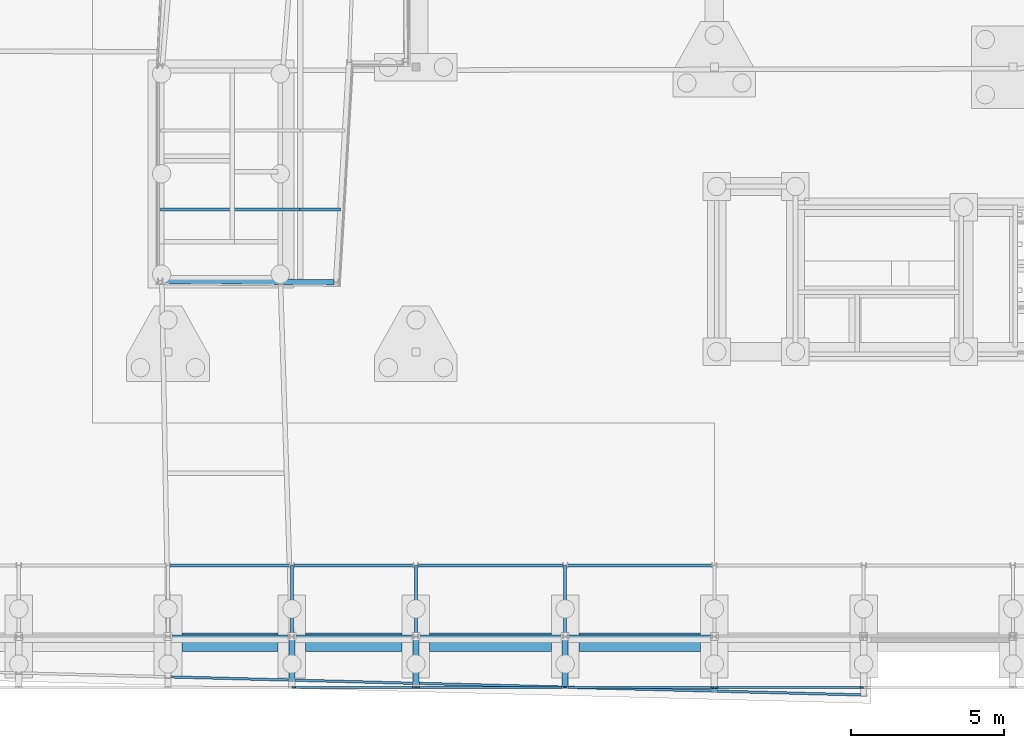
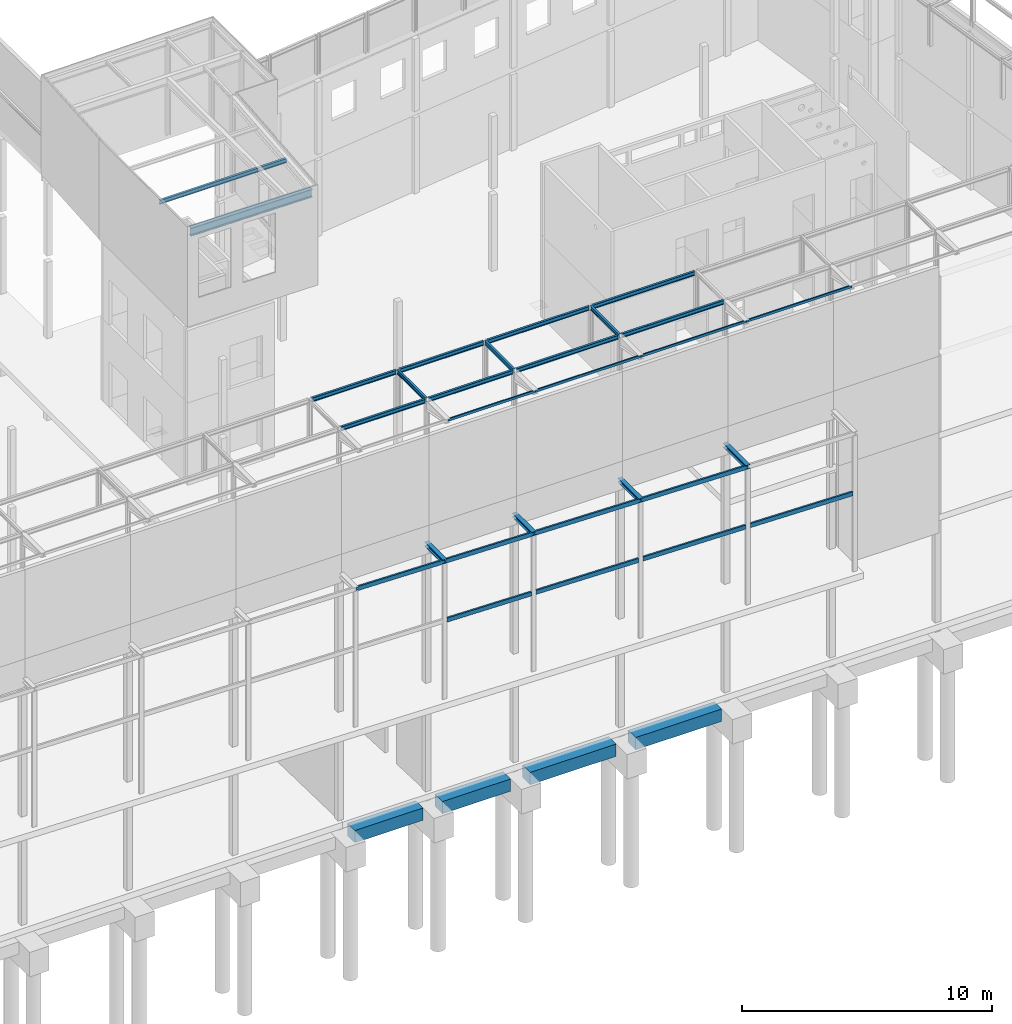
# One storey, part 62 of 82: 34 beams.
"""IFC2X3 building model written with IfcOpenShell, lengths in millimetres."""

from ifc_helpers import new_model, si_unit, frame, frame_2d, origin_with_axes, place, context, subcontext, project, spatial, rectangle, i_section, u_section, extrude, boolean, clip, halfspace, material, type_object, element, save


model = new_model("IFC2X3")

# Units and contexts
model_context = context("Model", 3, precision=1e-05, world=origin_with_axes())
body_context = subcontext(model_context, "Body", "Model", "MODEL_VIEW")
ifc_project = project(units=[si_unit("LENGTHUNIT", "METRE", prefix="MILLI"), si_unit("AREAUNIT", "SQUARE_METRE"), si_unit("VOLUMEUNIT", "CUBIC_METRE"), si_unit("MASSUNIT", "GRAM", prefix="KILO"), si_unit("TIMEUNIT", "SECOND"), si_unit("PLANEANGLEUNIT", "RADIAN"), si_unit("SOLIDANGLEUNIT", "STERADIAN"), si_unit("THERMODYNAMICTEMPERATUREUNIT", "DEGREE_CELSIUS"), si_unit("LUMINOUSINTENSITYUNIT", "LUMEN")], contexts=[model_context])

# Site, building, storey
site_placement = place(None, origin_with_axes())
site = spatial("IfcSite", under=ifc_project, at=site_placement, Name="Undefined", CompositionType="ELEMENT")
building_placement = place(site_placement, origin_with_axes())
building = spatial("IfcBuilding", under=site, at=building_placement, Name="Undefined", CompositionType="ELEMENT")
storey_placement = place(building_placement, origin_with_axes())
storey = spatial("IfcBuildingStorey", under=building, at=storey_placement, Name="Undefined", CompositionType="ELEMENT", Elevation=0.0)

# Beams
ifc_material_1 = material(Name="STEEL/S275JR")
beam_type_1 = type_object("IfcBeamType", Name="IPE200", PredefinedType="NOTDEFINED")
for number, where, z_axis, x_axis, name in (
    (1, (42224.9999979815, -0.00129037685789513, 19025.0300000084), (0.0, 1.29029999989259e-05, 0.999999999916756), (1.00000135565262e-09, 0.999999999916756, -1.29029999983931e-05), "POUTRE"),
    (2, (37349.9999979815, -0.00129036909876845, 19025.0300000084), (0.0, 1.29029999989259e-05, 0.999999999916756), (1.00000135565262e-09, 0.999999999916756, -1.29029999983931e-05), "POUTRE"),
    (3, (33299.9999979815, -0.00129036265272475, 19025.0300000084), (0.0, 1.29029999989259e-05, 0.999999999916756), (1.00000135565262e-09, 0.999999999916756, -1.29029999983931e-05), "POUTRE"),
):
    element("IfcBeam", number, at=place(storey_placement, frame(where, z_axis=z_axis, x_axis=x_axis)), inside=storey, type_object=beam_type_1, material=ifc_material_1, Name=name, ObjectType="IPE200", context=body_context, shape_type="SweptSolid", body=[
        extrude(i_section(OverallWidth=100.0, OverallDepth=200.0, WebThickness=5.599999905, FlangeThickness=8.5, FilletRadius=12.0, at=frame_2d((5.17284206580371e-08, 4.49290382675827e-10), x_axis=(1.0, 0.0))), frame((2321.00129012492, -9.56248207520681e-23, 3.93192912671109e-18), z_axis=(-1.0, 0.0, 0.0), x_axis=(-2.77555756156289e-17, -1.0, 0.0)), (0.0, 0.0, 1.0), 2317.0),
    ])
beam_1_placement = place(storey_placement, frame((33575.0000006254, 13949.9999998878, 21745.0), z_axis=(0.0, 0.0, 1.0), x_axis=(1.0, 0.0, 0.0)))
element("IfcBeam", 4, at=beam_1_placement, inside=storey, type_object=beam_type_1, material=ifc_material_1, Name="POUTRE", ObjectType="IPE200", context=body_context, shape_type="Clipping", body=[
    clip(extrude(i_section(OverallWidth=100.0, OverallDepth=200.0, WebThickness=5.599999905, FlangeThickness=8.5, FilletRadius=12.0, at=frame_2d((5.17284206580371e-08, 4.49290382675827e-10), x_axis=(1.0, 0.0))), frame((1309.27339287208, 0.0, 0.0), z_axis=(-1.0, 0.0, 0.0), x_axis=(-2.77555756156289e-17, -1.0, 0.0)), (0.0, 0.0, 1.0), 1305.0), halfspace(frame((1306.28050833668, -2.65208655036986e-08, -1000.0), z_axis=(-0.998248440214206, 0.0591612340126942, 0.0), x_axis=(0.0591612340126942, 0.998248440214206, 0.0)), True)),
])
beam_2_placement = place(storey_placement, frame((29250.0000001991, 13949.999999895, 21745.0), z_axis=(0.0, 0.0, 1.0), x_axis=(1.0, 0.0, 0.0)))
element("IfcBeam", 5, at=beam_2_placement, inside=storey, type_object=beam_type_1, material=ifc_material_1, Name="POUTRE", ObjectType="IPE200", context=body_context, shape_type="SweptSolid", body=[
    extrude(i_section(OverallWidth=100.0, OverallDepth=200.0, WebThickness=5.599999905, FlangeThickness=8.5, FilletRadius=12.0, at=frame_2d((5.17284206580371e-08, 4.49290382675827e-10), x_axis=(1.0, 0.0))), frame((4320.70000113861, 0.0, 0.0), z_axis=(-1.0, 0.0, 0.0), x_axis=(-2.77555756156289e-17, -1.0, 0.0)), (0.0, 0.0, 1.0), 4562.6),
])
beam_3_placement = place(storey_placement, frame((42225.0000003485, 2324.99999987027, 19025.0000000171), z_axis=(0.0, 0.0, 1.0), x_axis=(1.0, 0.0, 0.0)))
element("IfcBeam", 6, at=beam_3_placement, inside=storey, type_object=beam_type_1, material=ifc_material_1, Name="POUTRE", ObjectType="IPE200", context=body_context, shape_type="SweptSolid", body=[
    extrude(i_section(OverallWidth=100.0, OverallDepth=200.0, WebThickness=5.599999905, FlangeThickness=8.5, FilletRadius=12.0, at=frame_2d((5.17284206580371e-08, 4.49290382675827e-10), x_axis=(1.0, 0.0))), frame((4795.00000103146, 0.0, 0.0), z_axis=(-1.0, 0.0, 0.0), x_axis=(-2.77555756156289e-17, -1.0, 0.0)), (0.0, 0.0, 1.0), 4715.0),
])
beam_4_placement = place(storey_placement, frame((37349.9991902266, 2324.99999987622, 19025.0000000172), z_axis=(0.0, 0.0, 1.0), x_axis=(1.0, 0.0, 0.0)))
element("IfcBeam", 7, at=beam_4_placement, inside=storey, type_object=beam_type_1, material=ifc_material_1, Name="POUTRE", ObjectType="IPE200", context=body_context, shape_type="SweptSolid", body=[
    extrude(i_section(OverallWidth=100.0, OverallDepth=200.0, WebThickness=5.599999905, FlangeThickness=8.5, FilletRadius=12.0, at=frame_2d((5.17284206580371e-08, 4.49290382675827e-10), x_axis=(1.0, 0.0))), frame((4795.00081092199, 0.0, 0.0), z_axis=(-1.0, 0.0, 0.0), x_axis=(-2.77555756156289e-17, -1.0, 0.0)), (0.0, 0.0, 1.0), 4715.0),
])
for number, where, z_axis, x_axis, name in (
    (8, (33300.0000005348, 2324.99999982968, 19025.0000000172), (0.0, 0.0, 1.0), (1.0, 0.0, 0.0), "POUTRE"),
    (9, (29249.999999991, 2324.9999997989, 19025.0000000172), (0.0, 0.0, 1.0), (1.0, 0.0, 0.0), "POUTRE"),
):
    element("IfcBeam", number, at=place(storey_placement, frame(where, z_axis=z_axis, x_axis=x_axis)), inside=storey, type_object=beam_type_1, material=ifc_material_1, Name=name, ObjectType="IPE200", context=body_context, shape_type="SweptSolid", body=[
        extrude(i_section(OverallWidth=100.0, OverallDepth=200.0, WebThickness=5.599999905, FlangeThickness=8.5, FilletRadius=12.0, at=frame_2d((5.17284206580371e-08, 4.49290382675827e-10), x_axis=(1.0, 0.0))), frame((3970.00000060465, 0.0, 0.0), z_axis=(-1.0, 0.0, 0.0), x_axis=(-2.77555756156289e-17, -1.0, 0.0)), (0.0, 0.0, 1.0), 3890.0),
    ])
beam_5_placement = place(storey_placement, frame((42224.999384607, -5.7370442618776e-08, 19025.0300000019), z_axis=(6.15400000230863e-06, 0.0, 0.999999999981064), x_axis=(0.999999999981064, 0.0, -6.1540000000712e-06)))
element("IfcBeam", 10, at=beam_5_placement, inside=storey, type_object=beam_type_1, material=ifc_material_1, Name="POUTRE", ObjectType="IPE200", context=body_context, shape_type="SweptSolid", body=[
    extrude(i_section(OverallWidth=100.0, OverallDepth=200.0, WebThickness=5.599999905, FlangeThickness=8.5, FilletRadius=12.0, at=frame_2d((5.17284206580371e-08, 4.49290382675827e-10), x_axis=(1.0, 0.0))), frame((4795.00061555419, 0.0, 4.06152350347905e-18), z_axis=(-1.0, 0.0, 0.0), x_axis=(-2.77555756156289e-17, -1.0, 0.0)), (0.0, 0.0, 1.0), 4715.0),
])
beam_6_placement = place(storey_placement, frame((37350.0006153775, -4.93093637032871e-08, 19025.0000000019), z_axis=(-6.11252893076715e-06, 2.76481135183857e-10, 0.999999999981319), x_axis=(0.999999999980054, 0.0, 6.31599999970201e-06)))
element("IfcBeam", 11, at=beam_6_placement, inside=storey, type_object=beam_type_1, material=ifc_material_1, Name="POUTRE", ObjectType="IPE200", context=body_context, shape_type="SweptSolid", body=[
    extrude(i_section(OverallWidth=100.0, OverallDepth=200.0, WebThickness=5.599999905, FlangeThickness=8.5, FilletRadius=12.0, at=frame_2d((5.17284206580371e-08, 4.49290382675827e-10), x_axis=(1.0, 0.0))), frame((4794.9993847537, 0.0, 0.0), z_axis=(-1.0, 0.0, 0.0), x_axis=(-2.77555756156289e-17, -1.0, 0.0)), (0.0, 0.0, 1.0), 4715.0),
])
beam_7_placement = place(storey_placement, frame((33299.9992592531, -4.2605023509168e-08, 19025.0300000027), z_axis=(7.40699999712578e-06, 0.0, 0.999999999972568), x_axis=(0.999999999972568, 0.0, -7.40700000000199e-06)))
element("IfcBeam", 12, at=beam_7_placement, inside=storey, type_object=beam_type_1, material=ifc_material_1, Name="POUTRE", ObjectType="IPE200", context=body_context, shape_type="SweptSolid", body=[
    extrude(i_section(OverallWidth=100.0, OverallDepth=200.0, WebThickness=5.599999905, FlangeThickness=8.5, FilletRadius=12.0, at=frame_2d((5.17284206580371e-08, 4.49290382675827e-10), x_axis=(1.0, 0.0))), frame((3970.00074088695, 0.0, 0.0), z_axis=(-1.0, 0.0, 0.0), x_axis=(-2.77555756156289e-17, -1.0, 0.0)), (0.0, 0.0, 1.0), 3890.0),
])
beam_8_placement = place(storey_placement, frame((29250.0007407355, -3.5907959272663e-08, 19025.0000000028), z_axis=(-7.40700000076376e-06, 0.0, 0.999999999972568), x_axis=(0.999999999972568, 0.0, 7.40700000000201e-06)))
element("IfcBeam", 13, at=beam_8_placement, inside=storey, type_object=beam_type_1, material=ifc_material_1, Name="POUTRE", ObjectType="IPE200", context=body_context, shape_type="SweptSolid", body=[
    extrude(i_section(OverallWidth=100.0, OverallDepth=200.0, WebThickness=5.599999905, FlangeThickness=8.5, FilletRadius=12.0, at=frame_2d((5.17284206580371e-08, 4.49290382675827e-10), x_axis=(1.0, 0.0))), frame((3969.99925939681, 0.0, 0.0), z_axis=(-1.0, 0.0, 0.0), x_axis=(-2.77555756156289e-17, -1.0, 0.0)), (0.0, 0.0, 1.0), 3890.0),
])
beam_type_2 = type_object("IfcBeamType", Name="UPE120", PredefinedType="NOTDEFINED")
beam_9_placement = place(storey_placement, frame((47109.6813524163, -1670.00005428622, 19065.0), z_axis=(0.0, -6.50000002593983e-08, -0.999999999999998), x_axis=(1.0, 0.0, 0.0)))
element("IfcBeam", 14, at=beam_9_placement, inside=storey, type_object=beam_type_2, material=ifc_material_1, Name="POUTRE", ObjectType="UPE120", context=body_context, shape_type="CSG", body=[
    boolean("DIFFERENCE", boolean("DIFFERENCE", extrude(u_section(Depth=120.0, FlangeWidth=60.0, WebThickness=5.0, FlangeThickness=8.0, FilletRadius=12.0, at=frame_2d((5.17284206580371e-08, 4.49290382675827e-10), x_axis=(1.0, 0.0))), frame((4860.31816219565, 0.0, 0.0), z_axis=(-1.0, 0.0, 0.0), x_axis=(-2.77555756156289e-17, -1.0, 0.0)), (0.0, 0.0, 1.0), 4865.0), extrude(rectangle(XDim=22.0, YDim=112.0, at=frame_2d((5.17284206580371e-08, 4.49290382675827e-10), x_axis=(1.0, 0.0))), frame((49.3181621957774, 31.0, -50.014868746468), z_axis=(-2.77555756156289e-17, -1.0, 0.0), x_axis=(0.0, 0.0, 1.0)), (0.0, 0.0, 1.0), 62.0)), extrude(rectangle(XDim=22.0, YDim=112.0, at=frame_2d((5.17284206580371e-08, 4.49290382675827e-10), x_axis=(1.0, 0.0))), frame((4806.31816219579, -31.0, -50.014868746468), z_axis=(0.0, 1.0, 0.0), x_axis=(0.0, 0.0, 1.0)), (0.0, 0.0, 1.0), 62.0)),
])
for number, where, z_axis, x_axis, name in (
    (15, (42234.6818419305, -1670.00005429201, 19065.0), (0.0, -6.50000002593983e-08, -0.999999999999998), (1.0, 0.0, 0.0), "POUTRE"),
    (16, (37359.6818419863, -1670.00005429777, 19065.0), (0.0, -6.50000002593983e-08, -0.999999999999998), (1.0, 0.0, 0.0), "POUTRE"),
):
    element("IfcBeam", number, at=place(storey_placement, frame(where, z_axis=z_axis, x_axis=x_axis)), inside=storey, type_object=beam_type_2, material=ifc_material_1, Name=name, ObjectType="UPE120", context=body_context, shape_type="CSG", body=[
        boolean("DIFFERENCE", boolean("DIFFERENCE", extrude(u_section(Depth=120.0, FlangeWidth=60.0, WebThickness=5.0, FlangeThickness=8.0, FilletRadius=12.0, at=frame_2d((5.17284206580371e-08, 4.49290382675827e-10), x_axis=(1.0, 0.0))), frame((4860.31767279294, 0.0, 0.0), z_axis=(-1.0, 0.0, 0.0), x_axis=(-2.77555756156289e-17, -1.0, 0.0)), (0.0, 0.0, 1.0), 4865.0), extrude(rectangle(XDim=22.0, YDim=112.0, at=frame_2d((5.17284206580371e-08, 4.49290382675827e-10), x_axis=(1.0, 0.0))), frame((49.3176728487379, 31.0, -50.0148687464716), z_axis=(-2.77555756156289e-17, -1.0, 0.0), x_axis=(0.0, 0.0, 1.0)), (0.0, 0.0, 1.0), 62.0)), extrude(rectangle(XDim=22.0, YDim=112.0, at=frame_2d((5.17284206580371e-08, 4.49290382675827e-10), x_axis=(1.0, 0.0))), frame((4806.31767279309, -31.0, -50.0148687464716), z_axis=(0.0, 1.0, 0.0), x_axis=(0.0, 0.0, 1.0)), (0.0, 0.0, 1.0), 62.0)),
    ])
beam_10_placement = place(storey_placement, frame((33307.4609396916, -1670.00005430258, 19065.0), z_axis=(0.0, -6.50000002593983e-08, -0.999999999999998), x_axis=(1.0, 0.0, 0.0)))
element("IfcBeam", 17, at=beam_10_placement, inside=storey, type_object=beam_type_2, material=ifc_material_1, Name="POUTRE", ObjectType="UPE120", context=body_context, shape_type="CSG", body=[
    boolean("DIFFERENCE", boolean("DIFFERENCE", extrude(u_section(Depth=120.0, FlangeWidth=60.0, WebThickness=5.0, FlangeThickness=8.0, FilletRadius=12.0, at=frame_2d((5.17284206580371e-08, 4.49290382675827e-10), x_axis=(1.0, 0.0))), frame((4037.53857492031, 0.0, 0.0), z_axis=(-1.0, 0.0, 0.0), x_axis=(-2.77555756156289e-17, -1.0, 0.0)), (0.0, 0.0, 1.0), 4040.0), extrude(rectangle(XDim=22.0, YDim=112.0, at=frame_2d((5.17284206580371e-08, 4.49290382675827e-10), x_axis=(1.0, 0.0))), frame((51.5385749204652, 31.0, -50.0148687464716), z_axis=(-2.77555756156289e-17, -1.0, 0.0), x_axis=(0.0, 0.0, 1.0)), (0.0, 0.0, 1.0), 62.0)), extrude(rectangle(XDim=22.0, YDim=112.0, at=frame_2d((5.17284206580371e-08, 4.49290382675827e-10), x_axis=(1.0, 0.0))), frame((3983.53857492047, -31.0, -50.0148687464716), z_axis=(0.0, 1.0, 0.0), x_axis=(0.0, 0.0, 1.0)), (0.0, 0.0, 1.0), 62.0)),
])
beam_type_3 = type_object("IfcBeamType", Name="IPE400", PredefinedType="NOTDEFINED")
beam_11_placement = place(storey_placement, frame((29003.7484989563, 11622.462924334, 21695.0), z_axis=(0.0, 0.0, 1.0), x_axis=(0.999952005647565, -0.00979726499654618, 0.0)))
element("IfcBeam", 18, at=beam_11_placement, inside=storey, type_object=beam_type_3, material=ifc_material_1, Name="POUTRE", ObjectType="IPE400", context=body_context, shape_type="Clipping", body=[
    clip(clip(extrude(i_section(OverallWidth=180.0, OverallDepth=400.0, WebThickness=8.600000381, FlangeThickness=13.5, FilletRadius=21.0, at=frame_2d((5.17284206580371e-08, 4.49290382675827e-10), x_axis=(1.0, 0.0))), frame((5662.6177347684, 0.0, 0.0), z_axis=(-1.0, 0.0, 0.0), x_axis=(-2.77555756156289e-17, -1.0, 0.0)), (0.0, 0.0, 1.0), 5584.4), halfspace(frame((5660.83632941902, -2.6358975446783e-08, -1000.0), z_axis=(-0.999951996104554, -0.00979823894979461, 0.0), x_axis=(-0.00979823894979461, 0.999951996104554, 0.0)), True)), halfspace(frame((80.0038406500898, -1.74768501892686e-08, -1000.0), z_axis=(0.999951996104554, 0.00979823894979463, 0.0), x_axis=(0.00979823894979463, -0.999951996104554, 0.0)), True)),
])
beam_type_4 = type_object("IfcBeamType", Name="UPE200", PredefinedType="NOTDEFINED")
beam_12_placement = place(storey_placement, frame((33301.0506681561, -1426.26308037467, 9125.0), z_axis=(0.0, -6.50000002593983e-08, -0.999999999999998), x_axis=(0.999654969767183, -0.0262667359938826, 0.0)))
element("IfcBeam", 19, at=beam_12_placement, inside=storey, type_object=beam_type_4, material=ifc_material_1, Name="POUTRE", ObjectType="UPE200", context=body_context, shape_type="Clipping", body=[
    clip(clip(extrude(u_section(Depth=200.0, FlangeWidth=80.0, WebThickness=6.0, FlangeThickness=11.0, FilletRadius=13.0, at=frame_2d((5.17284206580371e-08, 4.49290382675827e-10), x_axis=(1.0, 0.0))), frame((3952.4339655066, 0.0, -1.81898940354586e-12), z_axis=(-1.0, 0.0, 0.0), x_axis=(-2.77555756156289e-17, -1.0, 0.0)), (0.0, 0.0, 1.0), 3855.6), halfspace(frame((3950.31088071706, 3.02244416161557e-08, 999.999999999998), z_axis=(-0.999654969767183, 0.0262667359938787, 0.0), x_axis=(-0.0262667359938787, -0.999654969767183, 0.0)), True)), halfspace(frame((98.9834828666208, 2.41033148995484e-08, 999.999999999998), z_axis=(0.999654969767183, -0.0262667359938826, 0.0), x_axis=(0.0262667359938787, 0.999654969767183, 0.0)), True)),
])
beam_13_placement = place(storey_placement, frame((47101.0354454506, -1785.15877566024, 9125.0), z_axis=(0.0, -6.50000002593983e-08, -0.999999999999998), x_axis=(0.999664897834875, -0.0258861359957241, 0.0)))
element("IfcBeam", 20, at=beam_13_placement, inside=storey, type_object=beam_type_4, material=ifc_material_1, Name="POUTRE", ObjectType="UPE200", context=body_context, shape_type="Clipping", body=[
    clip(clip(extrude(u_section(Depth=200.0, FlangeWidth=80.0, WebThickness=6.0, FlangeThickness=11.0, FilletRadius=13.0, at=frame_2d((5.17284206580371e-08, 4.49290382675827e-10), x_axis=(1.0, 0.0))), frame((4777.65186549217, -1.65758097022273e-14, 0.0), z_axis=(-1.0, 0.0, 0.0), x_axis=(-2.77555756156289e-17, -1.0, 0.0)), (0.0, 0.0, 1.0), 4680.7), halfspace(frame((4775.55956456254, 5.34796527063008e-08, 1000.0), z_axis=(-0.999664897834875, 0.0258861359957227, 0.0), x_axis=(-0.0258861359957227, -0.999664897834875, 0.0)), True)), halfspace(frame((98.9977277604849, 4.60463525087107e-08, 1000.0), z_axis=(0.999664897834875, -0.0258861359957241, 0.0), x_axis=(0.02588613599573, 0.999664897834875, 0.0)), True)),
])
beam_14_placement = place(storey_placement, frame((42226.0388092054, -1658.25879695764, 9125.0), z_axis=(0.0, -6.50000002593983e-08, -0.999999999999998), x_axis=(0.999664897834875, -0.0258861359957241, 0.0)))
element("IfcBeam", 21, at=beam_14_placement, inside=storey, type_object=beam_type_4, material=ifc_material_1, Name="POUTRE", ObjectType="UPE200", context=body_context, shape_type="Clipping", body=[
    clip(clip(extrude(u_section(Depth=200.0, FlangeWidth=80.0, WebThickness=6.0, FlangeThickness=11.0, FilletRadius=13.0, at=frame_2d((5.17284206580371e-08, 4.49290382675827e-10), x_axis=(1.0, 0.0))), frame((4777.65379157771, 0.0, 0.0), z_axis=(-1.0, 0.0, 0.0), x_axis=(-2.77555756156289e-17, -1.0, 0.0)), (0.0, 0.0, 1.0), 4680.7), halfspace(frame((4775.56149064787, 4.57284841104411e-08, 1000.0), z_axis=(-0.999664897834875, 0.0258861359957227, 0.0), x_axis=(-0.0258861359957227, -0.999664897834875, 0.0)), True)), halfspace(frame((98.9977277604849, 4.60463525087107e-08, 1000.0), z_axis=(0.999664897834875, -0.0258861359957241, 0.0), x_axis=(0.02588613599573, 0.999664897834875, 0.0)), True)),
])
beam_15_placement = place(storey_placement, frame((37351.0383278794, -1530.20904482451, 9125.0), z_axis=(0.0, -6.50000002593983e-08, -0.999999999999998), x_axis=(0.999664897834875, -0.0258861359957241, 0.0)))
element("IfcBeam", 22, at=beam_15_placement, inside=storey, type_object=beam_type_4, material=ifc_material_1, Name="POUTRE", ObjectType="UPE200", context=body_context, shape_type="Clipping", body=[
    clip(clip(extrude(u_section(Depth=200.0, FlangeWidth=80.0, WebThickness=6.0, FlangeThickness=11.0, FilletRadius=13.0, at=frame_2d((5.17284206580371e-08, 4.49290382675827e-10), x_axis=(1.0, 0.0))), frame((4777.65763908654, -1.65758297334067e-14, 0.0), z_axis=(-1.0, 0.0, 0.0), x_axis=(-2.77555756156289e-17, -1.0, 0.0)), (0.0, 0.0, 1.0), 4680.8), halfspace(frame((4775.56533815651, 3.79773155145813e-08, 1000.0), z_axis=(-0.999664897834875, 0.0258861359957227, 0.0), x_axis=(-0.0258861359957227, -0.999664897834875, 0.0)), True)), halfspace(frame((98.9934172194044, 3.05440153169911e-08, 1000.0), z_axis=(0.999664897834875, -0.0258861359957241, 0.0), x_axis=(0.02588613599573, 0.999664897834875, 0.0)), True)),
])
beam_16_placement = place(storey_placement, frame((33301.0506681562, -1426.26308037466, 12025.0), z_axis=(0.0, -6.50000002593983e-08, -0.999999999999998), x_axis=(0.999654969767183, -0.0262667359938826, 0.0)))
element("IfcBeam", 23, at=beam_16_placement, inside=storey, type_object=beam_type_4, material=ifc_material_1, Name="POUTRE", ObjectType="UPE200", context=body_context, shape_type="CSG", body=[
    boolean("DIFFERENCE", boolean("DIFFERENCE", boolean("DIFFERENCE", boolean("DIFFERENCE", boolean("DIFFERENCE", boolean("DIFFERENCE", extrude(u_section(Depth=200.0, FlangeWidth=80.0, WebThickness=6.0, FlangeThickness=11.0, FilletRadius=13.0, at=frame_2d((5.17284206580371e-08, 4.49290382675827e-10), x_axis=(1.0, 0.0))), frame((4047.8948134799, 0.0, 1.81898940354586e-12), z_axis=(-1.0, 0.0, 0.0), x_axis=(-2.77555756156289e-17, -1.0, 0.0)), (0.0, 0.0, 1.0), 4046.5), extrude(rectangle(XDim=34.0, YDim=107.5, at=frame_2d((5.17284206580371e-08, 4.49290382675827e-10), x_axis=(1.0, 0.0))), frame((3990.31962564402, -143.013090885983, 84.0000000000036), z_axis=(0.0262667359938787, 0.999654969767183, 0.0), x_axis=(0.0, 0.0, 1.0)), (0.0, 0.0, 1.0), 185.4)), extrude(rectangle(XDim=34.0, YDim=107.5, at=frame_2d((5.17284206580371e-08, 4.49290382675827e-10), x_axis=(1.0, 0.0))), frame((3990.31962564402, -143.013090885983, -83.9999999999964), z_axis=(0.0262667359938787, 0.999654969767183, 0.0), x_axis=(0.0, 0.0, 1.0)), (0.0, 0.0, 1.0), 185.4)), extrude(rectangle(XDim=34.0, YDim=107.5, at=frame_2d((5.17284206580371e-08, 4.49290382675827e-10), x_axis=(1.0, 0.0))), frame((59.0489814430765, 145.78423153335, 84.0000000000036), z_axis=(-0.0262667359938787, -0.999654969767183, 0.0), x_axis=(0.0, 0.0, 1.0)), (0.0, 0.0, 1.0), 188.2)), extrude(rectangle(XDim=34.0, YDim=107.5, at=frame_2d((5.17284206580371e-08, 4.49290382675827e-10), x_axis=(1.0, 0.0))), frame((59.0489814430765, 145.78423153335, -83.9999999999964), z_axis=(-0.0262667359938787, -0.999654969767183, 0.0), x_axis=(0.0, 0.0, 1.0)), (0.0, 0.0, 1.0), 188.2)), halfspace(frame((4045.84527077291, 3.03760998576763e-08, 1000.0), z_axis=(-0.999654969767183, 0.0262667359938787, 0.0), x_axis=(-0.0262667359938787, -0.999654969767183, 0.0)), True)), halfspace(frame((3.45052237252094, 2.39513155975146e-08, 1000.0), z_axis=(0.999654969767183, -0.0262667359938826, 0.0), x_axis=(0.0262667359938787, 0.999654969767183, 0.0)), True)),
])
beam_17_placement = place(storey_placement, frame((42226.0388092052, -1658.25879695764, 12025.0), z_axis=(0.0, -6.50000002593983e-08, -0.999999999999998), x_axis=(0.999664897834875, -0.0258861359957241, 0.0)))
element("IfcBeam", 24, at=beam_17_placement, inside=storey, type_object=beam_type_4, material=ifc_material_1, Name="POUTRE", ObjectType="UPE200", context=body_context, shape_type="CSG", body=[
    boolean("DIFFERENCE", boolean("DIFFERENCE", boolean("DIFFERENCE", boolean("DIFFERENCE", boolean("DIFFERENCE", boolean("DIFFERENCE", extrude(u_section(Depth=200.0, FlangeWidth=80.0, WebThickness=6.0, FlangeThickness=11.0, FilletRadius=13.0, at=frame_2d((5.17284206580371e-08, 4.49290382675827e-10), x_axis=(1.0, 0.0))), frame((4873.11438010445, 3.41060513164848e-13, 0.0), z_axis=(-1.0, 0.0, 0.0), x_axis=(-2.77555756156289e-17, -1.0, 0.0)), (0.0, 0.0, 1.0), 4871.7), extrude(rectangle(XDim=34.0, YDim=107.5, at=frame_2d((5.17284206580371e-08, 4.49290382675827e-10), x_axis=(1.0, 0.0))), frame((4815.10812516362, -162.89100776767, 84.0), z_axis=(0.02588613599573, 0.999664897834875, 0.0), x_axis=(0.0, 0.0, 1.0)), (0.0, 0.0, 1.0), 205.3)), extrude(rectangle(XDim=34.0, YDim=107.5, at=frame_2d((5.17284206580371e-08, 4.49290382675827e-10), x_axis=(1.0, 0.0))), frame((4815.10812516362, -162.89100776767, -84.0), z_axis=(0.02588613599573, 0.999664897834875, 0.0), x_axis=(0.0, 0.0, 1.0)), (0.0, 0.0, 1.0), 205.3)), extrude(rectangle(XDim=34.0, YDim=107.5, at=frame_2d((5.17284206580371e-08, 4.49290382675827e-10), x_axis=(1.0, 0.0))), frame((59.5184490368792, 165.621995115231, 84.0), z_axis=(-0.0258861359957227, -0.999664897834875, 0.0), x_axis=(0.0, 0.0, 1.0)), (0.0, 0.0, 1.0), 208.0)), extrude(rectangle(XDim=34.0, YDim=107.5, at=frame_2d((5.17284206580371e-08, 4.49290382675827e-10), x_axis=(1.0, 0.0))), frame((59.5184490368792, 165.621995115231, -84.0), z_axis=(-0.0258861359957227, -0.999664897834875, 0.0), x_axis=(0.0, 0.0, 1.0)), (0.0, 0.0, 1.0), 208.0)), halfspace(frame((4871.09350476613, 4.58802560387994e-08, 1000.0), z_axis=(-0.999664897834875, 0.0258861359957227, 0.0), x_axis=(-0.0258861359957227, -0.999664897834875, 0.0)), True)), halfspace(frame((3.46235102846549, 3.81431846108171e-08, 1000.0), z_axis=(0.999664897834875, -0.0258861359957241, 0.0), x_axis=(0.02588613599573, 0.999664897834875, 0.0)), True)),
])
beam_18_placement = place(storey_placement, frame((37351.0383278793, -1530.20904482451, 12025.0), z_axis=(0.0, -6.50000002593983e-08, -0.999999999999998), x_axis=(0.999664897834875, -0.0258861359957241, 0.0)))
element("IfcBeam", 25, at=beam_18_placement, inside=storey, type_object=beam_type_4, material=ifc_material_1, Name="POUTRE", ObjectType="UPE200", context=body_context, shape_type="CSG", body=[
    boolean("DIFFERENCE", boolean("DIFFERENCE", boolean("DIFFERENCE", boolean("DIFFERENCE", boolean("DIFFERENCE", boolean("DIFFERENCE", extrude(u_section(Depth=200.0, FlangeWidth=80.0, WebThickness=6.0, FlangeThickness=11.0, FilletRadius=13.0, at=frame_2d((5.17284206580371e-08, 4.49290382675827e-10), x_axis=(1.0, 0.0))), frame((4873.11486159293, 1.13686837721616e-13, 0.0), z_axis=(-1.0, 0.0, 0.0), x_axis=(-2.77555756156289e-17, -1.0, 0.0)), (0.0, 0.0, 1.0), 4871.7), extrude(rectangle(XDim=34.0, YDim=107.5, at=frame_2d((5.17284206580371e-08, 4.49290382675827e-10), x_axis=(1.0, 0.0))), frame((4815.1086066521, -162.89100776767, 84.0), z_axis=(0.02588613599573, 0.999664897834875, 0.0), x_axis=(0.0, 0.0, 1.0)), (0.0, 0.0, 1.0), 205.3)), extrude(rectangle(XDim=34.0, YDim=107.5, at=frame_2d((5.17284206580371e-08, 4.49290382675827e-10), x_axis=(1.0, 0.0))), frame((4815.1086066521, -162.89100776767, -84.0), z_axis=(0.02588613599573, 0.999664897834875, 0.0), x_axis=(0.0, 0.0, 1.0)), (0.0, 0.0, 1.0), 205.3)), extrude(rectangle(XDim=34.0, YDim=107.5, at=frame_2d((5.17284206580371e-08, 4.49290382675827e-10), x_axis=(1.0, 0.0))), frame((59.5189305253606, 165.621995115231, 84.0), z_axis=(-0.0258861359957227, -0.999664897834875, 0.0), x_axis=(0.0, 0.0, 1.0)), (0.0, 0.0, 1.0), 208.0)), extrude(rectangle(XDim=34.0, YDim=107.5, at=frame_2d((5.17284206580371e-08, 4.49290382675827e-10), x_axis=(1.0, 0.0))), frame((59.5189305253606, 165.621995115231, -84.0), z_axis=(-0.0258861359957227, -0.999664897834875, 0.0), x_axis=(0.0, 0.0, 1.0)), (0.0, 0.0, 1.0), 208.0)), halfspace(frame((4871.09398625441, 3.81289737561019e-08, 1000.0), z_axis=(-0.999664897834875, 0.0258861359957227, 0.0), x_axis=(-0.0258861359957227, -0.999664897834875, 0.0)), True)), halfspace(frame((3.46283251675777, 3.03917886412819e-08, 1000.0), z_axis=(0.999664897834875, -0.0258861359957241, 0.0), x_axis=(0.02588613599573, 0.999664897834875, 0.0)), True)),
])
beam_19_placement = place(storey_placement, frame((29251.0506681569, -1319.84608209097, 12025.0), z_axis=(0.0, -6.50000002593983e-08, -0.999999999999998), x_axis=(0.999654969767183, -0.0262667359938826, 0.0)))
element("IfcBeam", 26, at=beam_19_placement, inside=storey, type_object=beam_type_4, material=ifc_material_1, Name="POUTRE", ObjectType="UPE200", context=body_context, shape_type="CSG", body=[
    boolean("DIFFERENCE", boolean("DIFFERENCE", boolean("DIFFERENCE", boolean("DIFFERENCE", boolean("DIFFERENCE", boolean("DIFFERENCE", extrude(u_section(Depth=200.0, FlangeWidth=80.0, WebThickness=6.0, FlangeThickness=11.0, FilletRadius=13.0, at=frame_2d((5.17284206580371e-08, 4.49290382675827e-10), x_axis=(1.0, 0.0))), frame((4047.8948134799, 0.0, 1.81898940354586e-12), z_axis=(-1.0, 0.0, 0.0), x_axis=(-2.77555756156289e-17, -1.0, 0.0)), (0.0, 0.0, 1.0), 4046.5), extrude(rectangle(XDim=34.0, YDim=107.5, at=frame_2d((5.17284206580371e-08, 4.49290382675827e-10), x_axis=(1.0, 0.0))), frame((3990.31962564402, -143.013090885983, 84.0000000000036), z_axis=(0.0262667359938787, 0.999654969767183, 0.0), x_axis=(0.0, 0.0, 1.0)), (0.0, 0.0, 1.0), 185.4)), extrude(rectangle(XDim=34.0, YDim=107.5, at=frame_2d((5.17284206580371e-08, 4.49290382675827e-10), x_axis=(1.0, 0.0))), frame((3990.31962564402, -143.013090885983, -83.9999999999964), z_axis=(0.0262667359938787, 0.999654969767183, 0.0), x_axis=(0.0, 0.0, 1.0)), (0.0, 0.0, 1.0), 185.4)), extrude(rectangle(XDim=34.0, YDim=107.5, at=frame_2d((5.17284206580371e-08, 4.49290382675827e-10), x_axis=(1.0, 0.0))), frame((59.0489814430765, 145.78423153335, 84.0000000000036), z_axis=(-0.0262667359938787, -0.999654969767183, 0.0), x_axis=(0.0, 0.0, 1.0)), (0.0, 0.0, 1.0), 188.2)), extrude(rectangle(XDim=34.0, YDim=107.5, at=frame_2d((5.17284206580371e-08, 4.49290382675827e-10), x_axis=(1.0, 0.0))), frame((59.0489814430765, 145.78423153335, -83.9999999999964), z_axis=(-0.0262667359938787, -0.999654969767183, 0.0), x_axis=(0.0, 0.0, 1.0)), (0.0, 0.0, 1.0), 188.2)), halfspace(frame((4045.84527077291, 3.03760998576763e-08, 1000.0), z_axis=(-0.999654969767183, 0.0262667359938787, 0.0), x_axis=(-0.0262667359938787, -0.999654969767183, 0.0)), True)), halfspace(frame((3.45052237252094, 2.39513155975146e-08, 1000.0), z_axis=(0.999654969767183, -0.0262667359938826, 0.0), x_axis=(0.0262667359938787, 0.999654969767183, 0.0)), True)),
])
beam_type_5 = type_object("IfcBeamType", Name="HEB200", PredefinedType="NOTDEFINED")
beam_20_placement = place(storey_placement, frame((47099.9999999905, -6.54533494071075e-08, 12025.0), z_axis=(0.0, 0.0, 1.0), x_axis=(-2.77555756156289e-17, -1.0, 0.0)))
element("IfcBeam", 27, at=beam_20_placement, inside=storey, type_object=beam_type_5, material=ifc_material_1, Name="POUTRE", ObjectType="HEB200", context=body_context, shape_type="SweptSolid", body=[
    extrude(i_section(OverallWidth=200.0, OverallDepth=200.0, WebThickness=9.0, FlangeThickness=15.0, FilletRadius=18.0, at=frame_2d((5.17284206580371e-08, 4.49290382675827e-10), x_axis=(1.0, 0.0))), frame((1824.48235786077, 0.0, 0.0), z_axis=(-1.0, 0.0, 0.0), x_axis=(-2.77555756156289e-17, -1.0, 0.0)), (0.0, 0.0, 1.0), 1824.5),
])
beam_21_placement = place(storey_placement, frame((42224.9999999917, -5.73886325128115e-08, 12025.0), z_axis=(0.0, 0.0, 1.0), x_axis=(-2.77555756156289e-17, -1.0, 0.0)))
element("IfcBeam", 28, at=beam_21_placement, inside=storey, type_object=beam_type_5, material=ifc_material_1, Name="POUTRE", ObjectType="HEB200", context=body_context, shape_type="SweptSolid", body=[
    extrude(i_section(OverallWidth=200.0, OverallDepth=200.0, WebThickness=9.0, FlangeThickness=15.0, FilletRadius=18.0, at=frame_2d((5.17284206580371e-08, 4.49290382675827e-10), x_axis=(1.0, 0.0))), frame((1696.43261821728, 0.0, 0.0), z_axis=(-1.0, 0.0, 0.0), x_axis=(-2.77555756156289e-17, -1.0, 0.0)), (0.0, 0.0, 1.0), 1696.4),
])
beam_22_placement = place(storey_placement, frame((37349.9999999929, -4.93202776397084e-08, 12025.0), z_axis=(0.0, 0.0, 1.0), x_axis=(-2.77555756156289e-17, -1.0, 0.0)))
element("IfcBeam", 29, at=beam_22_placement, inside=storey, type_object=beam_type_5, material=ifc_material_1, Name="POUTRE", ObjectType="HEB200", context=body_context, shape_type="SweptSolid", body=[
    extrude(i_section(OverallWidth=200.0, OverallDepth=200.0, WebThickness=9.0, FlangeThickness=15.0, FilletRadius=18.0, at=frame_2d((5.17284206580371e-08, 4.49290382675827e-10), x_axis=(1.0, 0.0))), frame((1570.68189564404, 0.0, 0.0), z_axis=(-1.0, 0.0, 0.0), x_axis=(-2.77555756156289e-17, -1.0, 0.0)), (0.0, 0.0, 1.0), 1570.7),
])
beam_23_placement = place(storey_placement, frame((33299.9999999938, -4.26159374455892e-08, 12025.0), z_axis=(0.0, 0.0, 1.0), x_axis=(-2.77555756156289e-17, -1.0, 0.0)))
element("IfcBeam", 30, at=beam_23_placement, inside=storey, type_object=beam_type_5, material=ifc_material_1, Name="POUTRE", ObjectType="HEB200", context=body_context, shape_type="SweptSolid", body=[
    extrude(i_section(OverallWidth=200.0, OverallDepth=200.0, WebThickness=9.0, FlangeThickness=15.0, FilletRadius=18.0, at=frame_2d((5.17284206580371e-08, 4.49290382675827e-10), x_axis=(1.0, 0.0))), frame((1464.26489736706, 0.0, 0.0), z_axis=(-1.0, 0.0, 0.0), x_axis=(-2.77555756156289e-17, -1.0, 0.0)), (0.0, 0.0, 1.0), 1464.3),
])
ifc_material_2 = material(Name="CONCRETE/C30/37")
beam_type_6 = type_object("IfcBeamType", Name="600*600", PredefinedType="NOTDEFINED")
beam_24_placement = place(storey_placement, frame((42224.9981538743, -190.00000016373, -749.999999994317), z_axis=(6.15400000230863e-06, 0.0, 0.999999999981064), x_axis=(0.999999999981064, 0.0, -6.1540000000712e-06)))
element("IfcBeam", 31, at=beam_24_placement, inside=storey, type_object=beam_type_6, material=ifc_material_2, Name="LONGRINE", ObjectType="600*600", context=body_context, shape_type="SweptSolid", body=[
    extrude(rectangle(XDim=600.0, YDim=600.0, at=frame_2d((5.17284206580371e-08, 4.49290382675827e-10), x_axis=(1.0, 0.0))), frame((4425.00184623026, 0.0, 0.0), z_axis=(-1.0, 0.0, 0.0), x_axis=(-2.77555756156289e-17, -1.0, 0.0)), (0.0, 0.0, 1.0), 3975.0),
])
beam_25_placement = place(storey_placement, frame((37350.0018461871, -190.000000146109, -750.029999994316), z_axis=(-6.11252893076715e-06, 2.76481135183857e-10, 0.999999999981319), x_axis=(0.999999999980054, 0.0, 6.31599999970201e-06)))
element("IfcBeam", 32, at=beam_25_placement, inside=storey, type_object=beam_type_6, material=ifc_material_2, Name="LONGRINE", ObjectType="600*600", context=body_context, shape_type="SweptSolid", body=[
    extrude(rectangle(XDim=600.0, YDim=600.0, at=frame_2d((5.17284206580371e-08, 4.49290382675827e-10), x_axis=(1.0, 0.0))), frame((4424.99815392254, -2.8421709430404e-14, -3.74811922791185e-18), z_axis=(-1.0, 0.0, 0.0), x_axis=(-2.77555756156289e-17, -1.0, 0.0)), (0.0, 0.0, 1.0), 3975.0),
])
beam_26_placement = place(storey_placement, frame((33299.9977778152, -190.000000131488, -749.999999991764), z_axis=(7.40699999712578e-06, 0.0, 0.999999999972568), x_axis=(0.999999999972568, 0.0, -7.40700000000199e-06)))
element("IfcBeam", 33, at=beam_26_placement, inside=storey, type_object=beam_type_6, material=ifc_material_2, Name="LONGRINE", ObjectType="600*600", context=body_context, shape_type="SweptSolid", body=[
    extrude(rectangle(XDim=600.0, YDim=600.0, at=frame_2d((5.17284206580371e-08, 4.49290382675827e-10), x_axis=(1.0, 0.0))), frame((3600.00222231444, -2.8421709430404e-14, -3.04932049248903e-18), z_axis=(-1.0, 0.0, 0.0), x_axis=(-2.77555756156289e-17, -1.0, 0.0)), (0.0, 0.0, 1.0), 3150.0),
])
beam_27_placement = place(storey_placement, frame((29250.0022222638, -190.00000011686, -750.029999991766), z_axis=(-7.40700000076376e-06, 0.0, 0.999999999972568), x_axis=(0.999999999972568, 0.0, 7.40700000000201e-06)))
element("IfcBeam", 34, at=beam_27_placement, inside=storey, type_object=beam_type_6, material=ifc_material_2, Name="LONGRINE", ObjectType="600*600", context=body_context, shape_type="SweptSolid", body=[
    extrude(rectangle(XDim=600.0, YDim=600.0, at=frame_2d((5.17284206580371e-08, 4.49290382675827e-10), x_axis=(1.0, 0.0))), frame((3599.99777786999, -2.8421709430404e-14, -3.04931672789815e-18), z_axis=(-1.0, 0.0, 0.0), x_axis=(-2.77555756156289e-17, -1.0, 0.0)), (0.0, 0.0, 1.0), 3150.0),
])

save(model, "model.ifc")
